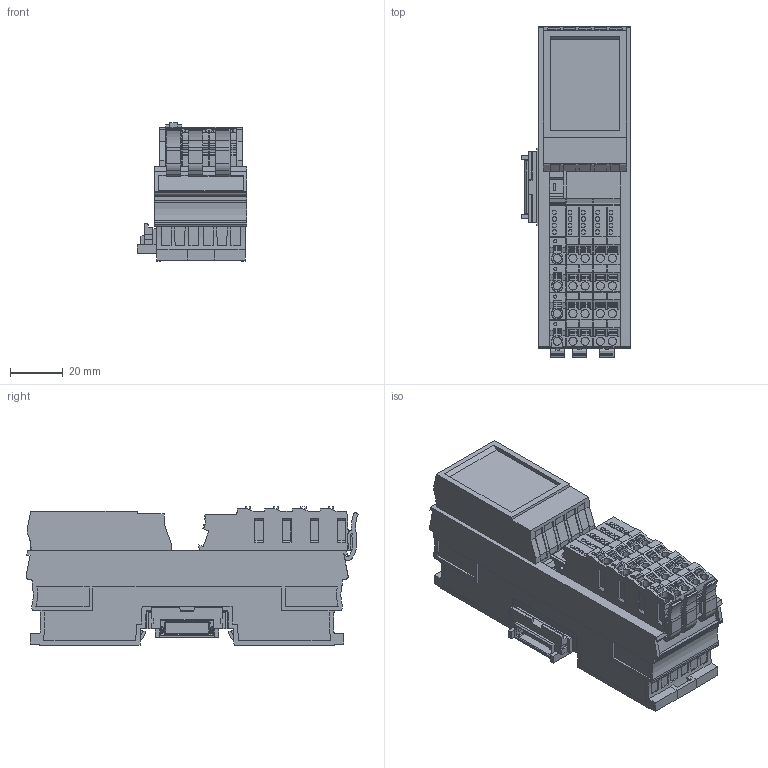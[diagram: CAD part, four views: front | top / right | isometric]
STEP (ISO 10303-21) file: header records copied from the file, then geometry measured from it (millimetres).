
FILE_DESCRIPTION((''),'2;1');
FILE_NAME('CU_REM-11102','2017-05-11T',('dkendric'),(''),'CREO PARAMETRIC BY PTC INC, 2015380','CREO PARAMETRIC BY PTC INC, 2015380','');
FILE_SCHEMA(('CONFIG_CONTROL_DESIGN'));
Length unit declared in the file: inch
Products named in the file (1): CU_REM-11102
Bounding box: 41.8 x 126.17 x 52.55 mm (x, y, z)
Volume: 177499.2 mm3; surface area: 43156.3 mm2
Topology: 1 solids, 8 shells, 2028 faces, 5755 edges, 3836 vertices
Faces by surface type: plane 1649, cylinder 371, cone 8
Entity records: 65597 total; most frequent: CARTESIAN_POINT 12242, ORIENTED_EDGE 11510, DIRECTION 10434, EDGE_CURVE 5755, VECTOR 4800, LINE 4800, VERTEX_POINT 3836, AXIS2_PLACEMENT_3D 2817
